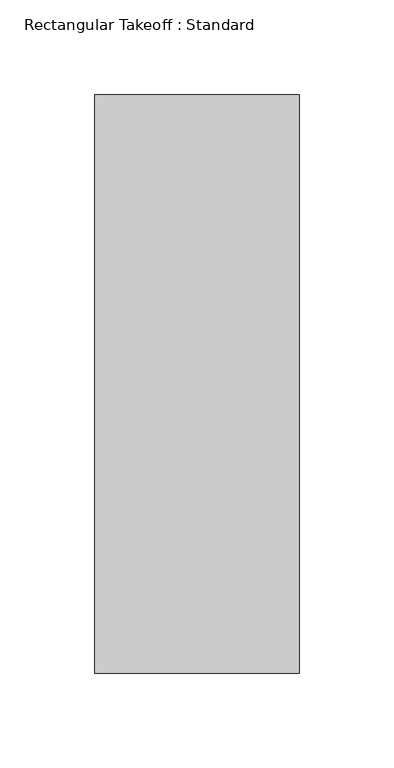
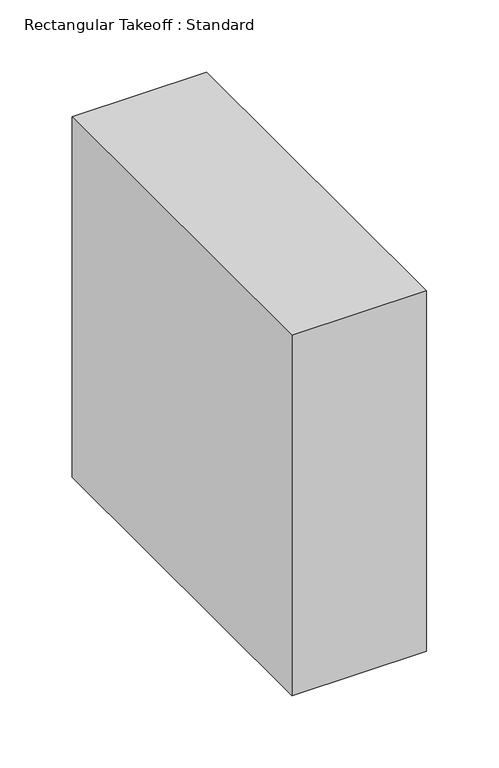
"""IFC4 building model written with IfcOpenShell, lengths in millimetres: duct fitting geometry, Rectangular Takeoff : Standard."""

from ifc_helpers import new_model, si_unit, frame, origin, place, context, project, spatial, polyline, outline, extrude, source, transform, mapped, element, save


def rectangular_takeoff_standard_e60ef6aa(model_context):
    return source(origin(), model_context, "Body", "SweptSolid", [
        extrude(outline(polyline([(-6.096, -152.4), (-6.096, 152.4), (101.6, 152.4), (101.6, -152.4), (-6.096, -152.4)])), frame((0.0, 0.0, -152.4), z_axis=(0.0, 0.0, 1.0), x_axis=(1.0, 0.0, 0.0)), (0.0, 0.0, 1.0), 304.8),
    ])


if __name__ == "__main__":
    model = new_model("IFC4")
    model_context = context("Model", 3, world=origin())
    ifc_project = project(units=[si_unit("LENGTHUNIT", "METRE", prefix="MILLI")], contexts=[model_context])
    site = spatial("IfcSite", under=ifc_project)
    building = spatial("IfcBuilding", under=site)
    placement = place(None, origin())
    rectangular_takeoff_standard_shape = rectangular_takeoff_standard_e60ef6aa(model_context)
    element("IfcDuctFitting", 1, ObjectType="Rectangular Takeoff : Standard", at=placement, inside=building, context=model_context, shape_type="MappedRepresentation", body=[
        mapped(rectangular_takeoff_standard_shape, transform((0.0, 0.0, 0.0), x_axis=(1.0, 0.0, 0.0), y_axis=(0.0, 1.0, 0.0), z_axis=(0.0, 0.0, 1.0))),
    ])
    save(model, "model.ifc")
